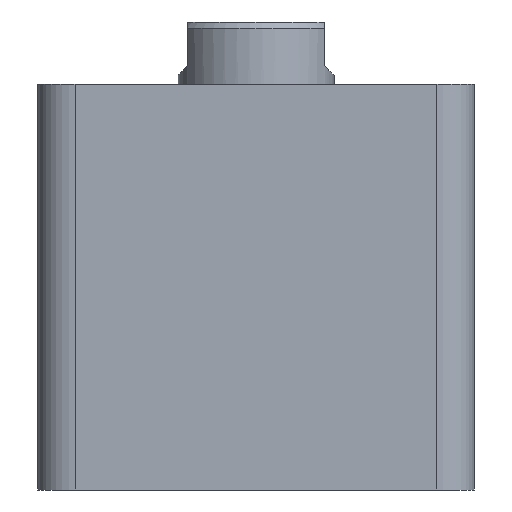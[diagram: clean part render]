
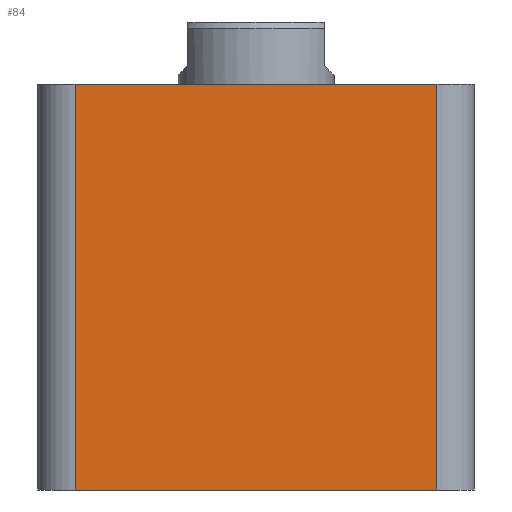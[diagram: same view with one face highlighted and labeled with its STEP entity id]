
A CAD part, front view. The second image highlights one B-rep face of the part: STEP entity #84.
In plain terms, the highlighted planar face has unit normal (0, -1, 0).
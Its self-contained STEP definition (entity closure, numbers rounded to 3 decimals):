
#84 = ADVANCED_FACE ( 'NONE', ( #380 ), #1666, .F. ) ;
#231 = ORIENTED_EDGE ( 'NONE', *, *, #886, .F. ) ;
#380 = FACE_OUTER_BOUND ( 'NONE', #692, .T. ) ;
#547 = ORIENTED_EDGE ( 'NONE', *, *, #889, .T. ) ;
#605 = ORIENTED_EDGE ( 'NONE', *, *, #887, .T. ) ;
#606 = ORIENTED_EDGE ( 'NONE', *, *, #888, .T. ) ;
#692 = EDGE_LOOP ( 'NONE', ( #231, #605, #606, #547 ) ) ;
#799 = VERTEX_POINT ( 'NONE', #2287 ) ;
#813 = VERTEX_POINT ( 'NONE', #2247 ) ;
#819 = VERTEX_POINT ( 'NONE', #2233 ) ;
#860 = VERTEX_POINT ( 'NONE', #2142 ) ;
#886 = EDGE_CURVE ( 'NONE', #799, #819, #1295, .T. ) ;
#887 = EDGE_CURVE ( 'NONE', #799, #813, #1515, .T. ) ;
#888 = EDGE_CURVE ( 'NONE', #813, #860, #1290, .T. ) ;
#889 = EDGE_CURVE ( 'NONE', #860, #819, #1522, .T. ) ;
#1290 = LINE ( 'NONE', #2077, #1520 ) ;
#1295 = LINE ( 'NONE', #2059, #1525 ) ;
#1515 = LINE ( 'NONE', #2053, #1523 ) ;
#1518 = VECTOR ( 'NONE', #2041, 1000. ) ;
#1520 = VECTOR ( 'NONE', #2048, 1000. ) ;
#1522 = LINE ( 'NONE', #2043, #1518 ) ;
#1523 = VECTOR ( 'NONE', #2057, 1000. ) ;
#1525 = VECTOR ( 'NONE', #2062, 1000. ) ;
#1664 = DIRECTION ( 'NONE',  ( 0., 0., 1. ) ) ;
#1665 = DIRECTION ( 'NONE',  ( 0., 1., 0. ) ) ;
#1666 = PLANE ( 'NONE',  #1813 ) ;
#1672 = CARTESIAN_POINT ( 'NONE',  ( -35., -35., 65. ) ) ;
#1813 = AXIS2_PLACEMENT_3D ( 'NONE', #1672, #1665, #1664 ) ;
#2041 = DIRECTION ( 'NONE',  ( 0., 0., 1. ) ) ;
#2043 = CARTESIAN_POINT ( 'NONE',  ( 29., -35., 65. ) ) ;
#2048 = DIRECTION ( 'NONE',  ( 1., 0., 0. ) ) ;
#2053 = CARTESIAN_POINT ( 'NONE',  ( -29., -35., 65. ) ) ;
#2057 = DIRECTION ( 'NONE',  ( 0., 0., -1. ) ) ;
#2059 = CARTESIAN_POINT ( 'NONE',  ( -35., -35., 65. ) ) ;
#2062 = DIRECTION ( 'NONE',  ( 1., 0., 0. ) ) ;
#2077 = CARTESIAN_POINT ( 'NONE',  ( -35., -35., 0. ) ) ;
#2142 = CARTESIAN_POINT ( 'NONE',  ( 29., -35., 0. ) ) ;
#2233 = CARTESIAN_POINT ( 'NONE',  ( 29., -35., 65. ) ) ;
#2247 = CARTESIAN_POINT ( 'NONE',  ( -29., -35., 0. ) ) ;
#2287 = CARTESIAN_POINT ( 'NONE',  ( -29., -35., 65. ) ) ;
